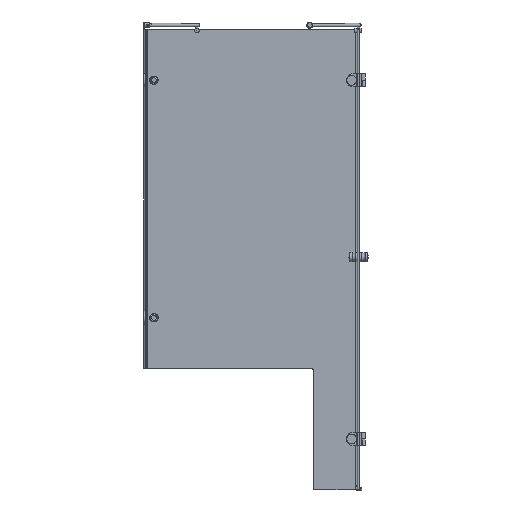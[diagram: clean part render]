
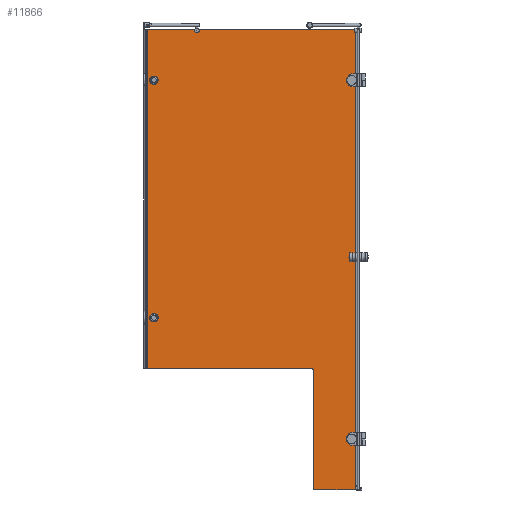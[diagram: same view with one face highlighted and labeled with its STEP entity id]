
A CAD part, left-side view. The second image highlights one B-rep face of the part: STEP entity #11866.
In plain terms, the highlighted planar face has unit normal (-1, 0, 0).
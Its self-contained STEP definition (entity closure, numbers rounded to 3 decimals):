
#435=LINE($,#17493,#1551);
#448=LINE($,#17546,#1564);
#898=LINE($,#19401,#2014);
#901=LINE($,#19406,#2017);
#918=LINE($,#19455,#2034);
#922=LINE($,#19462,#2038);
#966=LINE($,#19650,#2082);
#1100=LINE($,#20079,#2216);
#1127=LINE($,#20148,#2243);
#1129=LINE($,#20154,#2245);
#1551=VECTOR($,#13753,646.666);
#1564=VECTOR($,#13796,196.474);
#2014=VECTOR($,#15220,2.);
#2017=VECTOR($,#15225,5.581);
#2034=VECTOR($,#15284,168.419);
#2038=VECTOR($,#15290,12.192);
#2082=VECTOR($,#15404,1884.733);
#2216=VECTOR($,#15832,1400.);
#2243=VECTOR($,#15909,677.);
#2245=VECTOR($,#15917,490.);
#2644=FACE_BOUND($,#3906,.T.);
#2645=FACE_BOUND($,#3907,.T.);
#3207=FACE_OUTER_BOUND($,#3905,.T.);
#3905=EDGE_LOOP($,(#10063,#10064,#10065,#10066,#10067,#10068,#10069,#10070,
#10071,#10072,#10073,#10074,#10075,#10076,#10077));
#3906=EDGE_LOOP($,(#10078));
#3907=EDGE_LOOP($,(#10079));
#4018=CIRCLE($,#12111,10.);
#4139=CIRCLE($,#12393,17.5);
#4163=CIRCLE($,#12443,17.5);
#4287=CIRCLE($,#12693,16.);
#4335=CIRCLE($,#12808,0.5);
#4338=CIRCLE($,#12825,16.);
#4347=CIRCLE($,#12872,10.);
#4684=VERTEX_POINT($,#17250);
#4686=VERTEX_POINT($,#17254);
#4720=VERTEX_POINT($,#17492);
#4745=VERTEX_POINT($,#17544);
#4998=VERTEX_POINT($,#18428);
#5040=VERTEX_POINT($,#18616);
#5170=VERTEX_POINT($,#19161);
#5214=VERTEX_POINT($,#19396);
#5215=VERTEX_POINT($,#19400);
#5227=VERTEX_POINT($,#19454);
#5229=VERTEX_POINT($,#19460);
#5271=VERTEX_POINT($,#19606);
#5272=VERTEX_POINT($,#19608);
#5380=VERTEX_POINT($,#20011);
#5382=VERTEX_POINT($,#20078);
#5399=VERTEX_POINT($,#20146);
#5400=VERTEX_POINT($,#20152);
#5883=EDGE_CURVE($,#4684,#4686,#4018,.T.);
#5924=EDGE_CURVE($,#4720,#4684,#435,.T.);
#5951=EDGE_CURVE($,#4686,#4745,#448,.T.);
#6319=EDGE_CURVE($,#4998,#4998,#4139,.T.);
#6381=EDGE_CURVE($,#5040,#5040,#4163,.T.);
#6648=EDGE_CURVE($,#5170,#5215,#898,.T.);
#6651=EDGE_CURVE($,#5215,#5214,#901,.T.);
#6675=EDGE_CURVE($,#5214,#5227,#918,.T.);
#6679=EDGE_CURVE($,#5229,#5170,#922,.T.);
#6736=EDGE_CURVE($,#5272,#5271,#4287,.T.);
#6748=EDGE_CURVE($,#4720,#5271,#966,.T.);
#6906=EDGE_CURVE($,#5380,#5272,#4335,.T.);
#6924=EDGE_CURVE($,#5229,#5380,#4338,.T.);
#6938=EDGE_CURVE($,#4745,#5382,#1100,.T.);
#6973=EDGE_CURVE($,#5382,#5399,#1127,.T.);
#6975=EDGE_CURVE($,#5400,#5399,#4347,.T.);
#6976=EDGE_CURVE($,#5400,#5227,#1129,.T.);
#10063=ORIENTED_EDGE($,*,*,#5883,.T.);
#10064=ORIENTED_EDGE($,*,*,#5951,.T.);
#10065=ORIENTED_EDGE($,*,*,#6938,.T.);
#10066=ORIENTED_EDGE($,*,*,#6973,.T.);
#10067=ORIENTED_EDGE($,*,*,#6975,.F.);
#10068=ORIENTED_EDGE($,*,*,#6976,.T.);
#10069=ORIENTED_EDGE($,*,*,#6675,.F.);
#10070=ORIENTED_EDGE($,*,*,#6651,.F.);
#10071=ORIENTED_EDGE($,*,*,#6648,.F.);
#10072=ORIENTED_EDGE($,*,*,#6679,.F.);
#10073=ORIENTED_EDGE($,*,*,#6924,.T.);
#10074=ORIENTED_EDGE($,*,*,#6906,.T.);
#10075=ORIENTED_EDGE($,*,*,#6736,.T.);
#10076=ORIENTED_EDGE($,*,*,#6748,.F.);
#10077=ORIENTED_EDGE($,*,*,#5924,.T.);
#10078=ORIENTED_EDGE($,*,*,#6319,.T.);
#10079=ORIENTED_EDGE($,*,*,#6381,.T.);
#10648=PLANE($,#12871);
#11866=ADVANCED_FACE($,(#3207,#2644,#2645),#10648,.T.);
#12111=AXIS2_PLACEMENT_3D($,#17256,#13679,#13680);
#12393=AXIS2_PLACEMENT_3D($,#18429,#14546,#14547);
#12443=AXIS2_PLACEMENT_3D($,#18617,#14682,#14683);
#12693=AXIS2_PLACEMENT_3D($,#19609,#15388,#15389);
#12808=AXIS2_PLACEMENT_3D($,#20012,#15730,#15731);
#12825=AXIS2_PLACEMENT_3D($,#20045,#15779,#15780);
#12871=AXIS2_PLACEMENT_3D($,#20151,#15913,#15914);
#12872=AXIS2_PLACEMENT_3D($,#20153,#15915,#15916);
#13679=DIRECTION('center_axis',(1.,0.,0.));
#13680=DIRECTION('ref_axis',(0.,0.597,0.802));
#13753=DIRECTION($,(0.,1.,0.));
#13796=DIRECTION($,(0.,1.,0.));
#14546=DIRECTION('center_axis',(1.,0.,0.));
#14547=DIRECTION('ref_axis',(0.,-0.319,0.948));
#14682=DIRECTION('center_axis',(1.,0.,0.));
#14683=DIRECTION('ref_axis',(0.,-0.319,0.948));
#15220=DIRECTION($,(0.,0.,-1.));
#15225=DIRECTION($,(0.,1.,0.));
#15284=DIRECTION($,(0.,1.,0.));
#15290=DIRECTION($,(0.,0.,-1.));
#15388=DIRECTION('center_axis',(-1.,0.,0.));
#15389=DIRECTION('ref_axis',(0.,0.747,0.665));
#15404=DIRECTION($,(0.,0.,-1.));
#15730=DIRECTION('center_axis',(1.,0.,0.));
#15731=DIRECTION('ref_axis',(0.,-0.169,-0.986));
#15779=DIRECTION('center_axis',(1.,0.,0.));
#15780=DIRECTION('ref_axis',(0.,-0.71,-0.704));
#15832=DIRECTION($,(0.,0.,-1.));
#15909=DIRECTION($,(0.,-1.,0.));
#15913=DIRECTION('center_axis',(-1.,0.,0.));
#15914=DIRECTION('ref_axis',(0.,1.,0.));
#15915=DIRECTION('center_axis',(-1.,0.,0.));
#15916=DIRECTION('ref_axis',(0.,-0.707,0.707));
#15917=DIRECTION($,(0.,0.,-1.));
#17250=CARTESIAN_POINT('',(1086.59,617.622,1385.944));
#17254=CARTESIAN_POINT('',(1086.59,635.482,1385.944));
#17256=CARTESIAN_POINT('Origin',(1086.59,626.552,1381.444));
#17492=CARTESIAN_POINT('',(1086.59,-29.044,1385.944));
#17493=CARTESIAN_POINT($,(1086.59,-29.044,1385.944));
#17544=CARTESIAN_POINT('',(1086.59,831.956,1385.944));
#17546=CARTESIAN_POINT($,(1086.59,-29.044,1385.944));
#18428=CARTESIAN_POINT('',(1086.59,809.546,1159.361));
#18429=CARTESIAN_POINT('Origin',(1086.59,803.956,1175.944));
#18616=CARTESIAN_POINT('',(1086.59,809.546,179.361));
#18617=CARTESIAN_POINT('Origin',(1086.59,803.956,195.944));
#19161=CARTESIAN_POINT('',(1086.59,-29.044,-512.056));
#19396=CARTESIAN_POINT('',(1086.59,-23.463,-514.056));
#19400=CARTESIAN_POINT('',(1086.59,-29.044,-514.056));
#19401=CARTESIAN_POINT($,(1086.59,-29.044,1385.944));
#19406=CARTESIAN_POINT($,(1086.59,-29.044,-514.056));
#19454=CARTESIAN_POINT('',(1086.59,144.956,-514.056));
#19455=CARTESIAN_POINT($,(1086.59,-29.044,-514.056));
#19460=CARTESIAN_POINT('',(1086.59,-29.044,-499.863));
#19462=CARTESIAN_POINT($,(1086.59,-29.044,1385.944));
#19606=CARTESIAN_POINT('',(1086.59,-29.044,-498.789));
#19608=CARTESIAN_POINT('',(1086.59,-27.939,-499.067));
#19609=CARTESIAN_POINT('Origin',(1086.59,-24.589,-483.421));
#19650=CARTESIAN_POINT($,(1086.59,-29.044,1385.944));
#20011=CARTESIAN_POINT('',(1086.59,-28.129,-500.048));
#20012=CARTESIAN_POINT('Origin',(1086.59,-28.044,-499.556));
#20045=CARTESIAN_POINT('Origin',(1086.59,-25.419,-484.28));
#20078=CARTESIAN_POINT('',(1086.59,831.956,-14.056));
#20079=CARTESIAN_POINT($,(1086.59,831.956,685.944));
#20146=CARTESIAN_POINT('',(1086.59,154.956,-14.056));
#20148=CARTESIAN_POINT($,(1086.59,57.956,-14.056));
#20151=CARTESIAN_POINT('Origin',(1086.59,-29.044,1385.944));
#20152=CARTESIAN_POINT('',(1086.59,144.956,-24.056));
#20153=CARTESIAN_POINT('Origin',(1086.59,154.956,-24.056));
#20154=CARTESIAN_POINT($,(1086.59,144.956,435.944));
